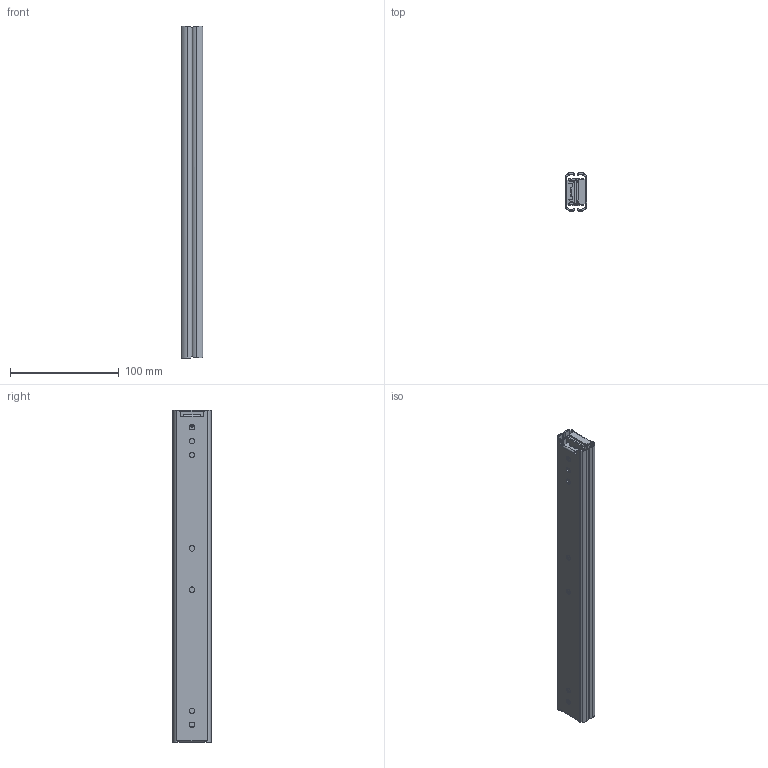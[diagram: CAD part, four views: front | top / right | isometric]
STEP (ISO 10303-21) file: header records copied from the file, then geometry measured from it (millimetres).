
FILE_DESCRIPTION (( 'STEP AP214' ), '1' );
FILE_NAME ('3560-300-closed.STEP', '2024-08-20T06:05:53', ( '' ), ( '' ), 'SwSTEP 2.0', 'SolidWorks 2024', '' );
FILE_SCHEMA (( 'AUTOMOTIVE_DESIGN' ));
Length unit declared in the file: millimetre
Products named in the file (4): 3560-300-closed; 26065P1-12''''.stp_Part1; 26065P3-12''''.stp_Part2; CAD_3560-300_TelescopicRailLight_Rollco.stp_Assem1
Assembly tree (5 placements, depth 3):
  3560-300-closed
    CAD_3560-300_TelescopicRailLight_Rollco.stp_Assem1
      26065P1-12''''.stp_Part1  x2
      26065P3-12''''.stp_Part2  x2
Bounding box: 19.6 x 35.28 x 304.8 mm (x, y, z)
Surface area: 99730.9 mm2 (no closed solid volume)
Topology: 0 solids, 4 shells, 298 faces, 858 edges, 568 vertices
Faces by surface type: cylinder 158, plane 140
Entity records: 6297 total; most frequent: CARTESIAN_POINT 3073, ORIENTED_EDGE 858, EDGE_CURVE 429, B_SPLINE_CURVE_WITH_KNOTS 416, DIRECTION 329, VERTEX_POINT 284, EDGE_LOOP 171, AXIS2_PLACEMENT_3D 158
